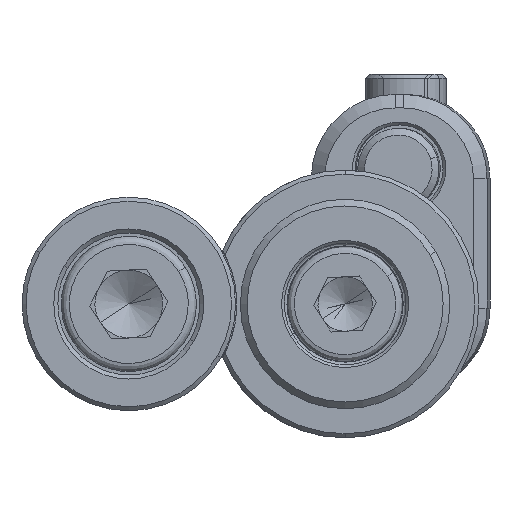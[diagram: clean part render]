
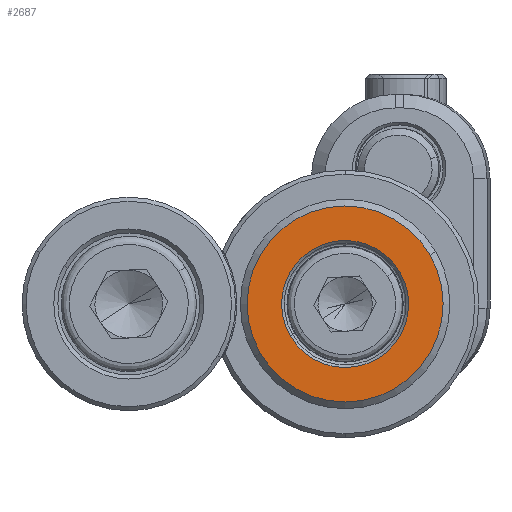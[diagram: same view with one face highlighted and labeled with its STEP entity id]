
A CAD part, front view. The second image highlights one B-rep face of the part: STEP entity #2687.
In plain terms, the highlighted planar face has unit normal (0, -1, 0).
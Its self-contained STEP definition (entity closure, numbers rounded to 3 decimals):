
#537 = CARTESIAN_POINT ( 'NONE',  ( 0., -4., 0. ) ) ;
#658 = CARTESIAN_POINT ( 'NONE',  ( 0., -4., 0. ) ) ;
#889 = FACE_BOUND ( 'NONE', #14148, .T. ) ;
#1382 = ORIENTED_EDGE ( 'NONE', *, *, #10797, .T. ) ;
#2615 = DIRECTION ( 'NONE',  ( -0.865, 0., -0.503 ) ) ;
#2687 = ADVANCED_FACE ( 'NONE', ( #889, #8340 ), #6398, .F. ) ;
#2968 = DIRECTION ( 'NONE',  ( -0.865, 0., -0.503 ) ) ;
#3121 = DIRECTION ( 'NONE',  ( -0.865, 0., -0.503 ) ) ;
#3267 = CARTESIAN_POINT ( 'NONE',  ( 6.268, -4., 3.643 ) ) ;
#3601 = AXIS2_PLACEMENT_3D ( 'NONE', #13393, #4905, #2615 ) ;
#4329 = VERTEX_POINT ( 'NONE', #11282 ) ;
#4451 = DIRECTION ( 'NONE',  ( 0., -1., 0. ) ) ;
#4905 = DIRECTION ( 'NONE',  ( 0., 1., 0. ) ) ;
#5051 = DIRECTION ( 'NONE',  ( 0., 1., 0. ) ) ;
#5243 = ORIENTED_EDGE ( 'NONE', *, *, #11334, .T. ) ;
#6398 = PLANE ( 'NONE',  #6714 ) ;
#6477 = EDGE_LOOP ( 'NONE', ( #14119, #5243 ) ) ;
#6647 = DIRECTION ( 'NONE',  ( -0.865, 0., -0.503 ) ) ;
#6714 = AXIS2_PLACEMENT_3D ( 'NONE', #10582, #5051, #3121 ) ;
#6902 = CIRCLE ( 'NONE', #13127, 4.7 ) ;
#7014 = CIRCLE ( 'NONE', #3601, 4.7 ) ;
#7246 = DIRECTION ( 'NONE',  ( 0., -1., 0. ) ) ;
#7481 = AXIS2_PLACEMENT_3D ( 'NONE', #658, #7246, #2968 ) ;
#7717 = CIRCLE ( 'NONE', #7481, 7.25 ) ;
#7865 = CARTESIAN_POINT ( 'NONE',  ( 0., -4., 0. ) ) ;
#8340 = FACE_OUTER_BOUND ( 'NONE', #6477, .T. ) ;
#8666 = AXIS2_PLACEMENT_3D ( 'NONE', #7865, #4451, #6647 ) ;
#9822 = CIRCLE ( 'NONE', #8666, 7.25 ) ;
#10510 = EDGE_CURVE ( 'NONE', #12980, #4329, #6902, .T. ) ;
#10582 = CARTESIAN_POINT ( 'NONE',  ( 2.261, -4., -3.891 ) ) ;
#10690 = CARTESIAN_POINT ( 'NONE',  ( -4.063, -4., -2.362 ) ) ;
#10743 = VERTEX_POINT ( 'NONE', #3267 ) ;
#10797 = EDGE_CURVE ( 'NONE', #4329, #12980, #7014, .T. ) ;
#10898 = EDGE_CURVE ( 'NONE', #13353, #10743, #7717, .T. ) ;
#11282 = CARTESIAN_POINT ( 'NONE',  ( 4.063, -4., 2.362 ) ) ;
#11334 = EDGE_CURVE ( 'NONE', #10743, #13353, #9822, .T. ) ;
#11378 = DIRECTION ( 'NONE',  ( -0.865, 0., -0.503 ) ) ;
#11540 = CARTESIAN_POINT ( 'NONE',  ( -6.268, -4., -3.643 ) ) ;
#12980 = VERTEX_POINT ( 'NONE', #10690 ) ;
#13127 = AXIS2_PLACEMENT_3D ( 'NONE', #537, #13741, #11378 ) ;
#13353 = VERTEX_POINT ( 'NONE', #11540 ) ;
#13393 = CARTESIAN_POINT ( 'NONE',  ( 0., -4., 0. ) ) ;
#13741 = DIRECTION ( 'NONE',  ( 0., 1., 0. ) ) ;
#14068 = ORIENTED_EDGE ( 'NONE', *, *, #10510, .T. ) ;
#14119 = ORIENTED_EDGE ( 'NONE', *, *, #10898, .T. ) ;
#14148 = EDGE_LOOP ( 'NONE', ( #1382, #14068 ) ) ;
